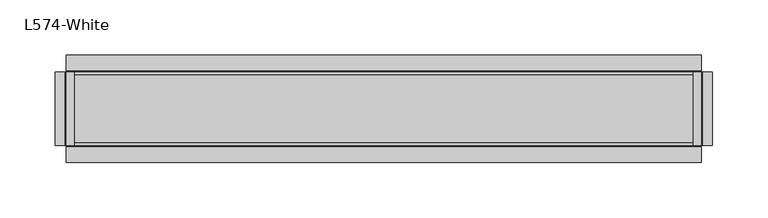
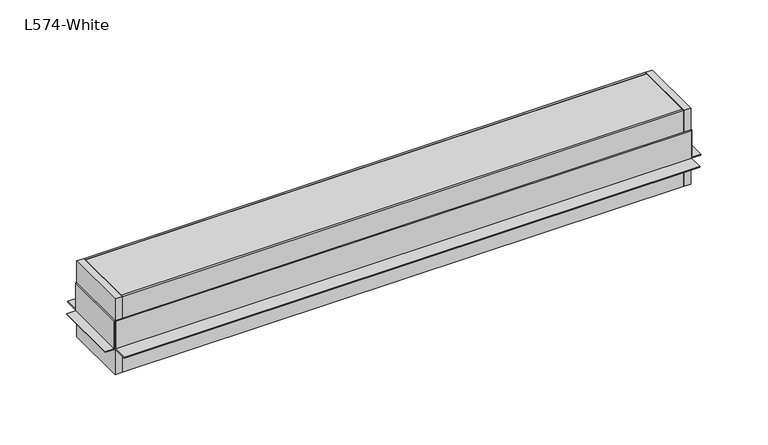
"""IFC4 building model written with IfcOpenShell, lengths in millimetres: light fixture geometry, Time%20Recessed%20Single : L574-White."""

from ifc_helpers import new_model, si_unit, frame, origin, place, context, project, spatial, polyline, outline, extrude, source, transform, mapped, element, save


def l574_white_cca8e8d5(model_context):
    return source(origin(), model_context, "Body", "SweptSolid", [
        extrude(outline(polyline([(279.0, 31.0), (279.0, -31.0), (-279.0, -31.0), (-279.0, 31.0), (279.0, 31.0)])), frame((0.0, 0.0, -25.0), z_axis=(0.0, 0.0, 1.0), x_axis=(1.0, 0.0, 0.0)), (0.0, 0.0, 1.0), 1.0),
        extrude(outline(polyline([(-279.0, 31.0), (-279.0, -31.0), (-280.0, -31.0), (-280.0, 31.0), (-279.0, 31.0)])), frame((0.0, 0.0, -25.0), z_axis=(0.0, 0.0, 1.0), x_axis=(1.0, 0.0, 0.0)), (0.0, 0.0, 1.0), 1.0),
        extrude(outline(polyline([(280.0, 31.0), (280.0, -31.0), (279.0, -31.0), (279.0, 31.0), (280.0, 31.0)])), frame((0.0, 0.0, -25.0), z_axis=(0.0, 0.0, 1.0), x_axis=(1.0, 0.0, 0.0)), (0.0, 0.0, 1.0), 1.0),
        extrude(outline(polyline([(33.0, 1.0), (33.0, 31.0), (34.0, 31.0), (34.0, 2.0), (48.5, 2.0), (48.5, 1.0), (33.0, 1.0)])), frame((-287.0, 0.0, 0.0), z_axis=(1.0, 0.0, 0.0), x_axis=(0.0, 1.0, 0.0)), (0.0, 0.0, 1.0), 574.0),
        extrude(outline(polyline([(-33.0, 1.0), (-48.5, 1.0), (-48.5, 2.0), (-34.0, 2.0), (-34.0, 31.0), (-33.0, 31.0), (-33.0, 1.0)])), frame((-287.0, 0.0, 0.0), z_axis=(1.0, 0.0, 0.0), x_axis=(0.0, 1.0, 0.0)), (0.0, 0.0, 1.0), 574.0),
        extrude(outline(polyline([(1.0, -287.0), (31.0, -287.0), (31.0, -288.0), (2.0, -288.0), (2.0, -297.0), (1.0, -297.0), (1.0, -287.0)])), frame((0.0, -33.0, 0.0), z_axis=(0.0, 1.0, 0.0), x_axis=(0.0, 0.0, 1.0)), (0.0, 0.0, 1.0), 66.0),
        extrude(outline(polyline([(1.0, 287.0), (1.0, 297.0), (2.0, 297.0), (2.0, 288.0), (31.0, 288.0), (31.0, 287.0), (1.0, 287.0)])), frame((0.0, -33.0, 0.0), z_axis=(0.0, 1.0, 0.0), x_axis=(0.0, 0.0, 1.0)), (0.0, 0.0, 1.0), 66.0),
        extrude(outline(polyline([(-280.0, 33.0), (-280.0, -33.0), (-287.0, -33.0), (-287.0, 33.0), (-280.0, 33.0)])), frame((0.0, 0.0, -26.0), z_axis=(0.0, 0.0, 1.0), x_axis=(1.0, 0.0, 0.0)), (0.0, 0.0, 1.0), 80.0),
        extrude(outline(polyline([(287.0, 33.0), (287.0, -33.0), (280.0, -33.0), (280.0, 33.0), (287.0, 33.0)])), frame((0.0, 0.0, -26.0), z_axis=(0.0, 0.0, 1.0), x_axis=(1.0, 0.0, 0.0)), (0.0, 0.0, 1.0), 80.0),
        extrude(outline(polyline([(280.0, 33.0), (280.0, 31.0), (-280.0, 31.0), (-280.0, 33.0), (280.0, 33.0)])), frame((0.0, 0.0, -26.0), z_axis=(0.0, 0.0, 1.0), x_axis=(1.0, 0.0, 0.0)), (0.0, 0.0, 1.0), 80.0),
        extrude(outline(polyline([(280.0, -31.0), (280.0, -33.0), (-280.0, -33.0), (-280.0, -31.0), (280.0, -31.0)])), frame((0.0, 0.0, -26.0), z_axis=(0.0, 0.0, 1.0), x_axis=(1.0, 0.0, 0.0)), (0.0, 0.0, 1.0), 80.0),
        extrude(outline(polyline([(280.0, 31.0), (280.0, -31.0), (-280.0, -31.0), (-280.0, 31.0), (280.0, 31.0)])), frame((0.0, 0.0, 52.0), z_axis=(0.0, 0.0, 1.0), x_axis=(1.0, 0.0, 0.0)), (0.0, 0.0, 1.0), 2.0),
    ])


if __name__ == "__main__":
    model = new_model("IFC4")
    model_context = context("Model", 3, world=origin())
    ifc_project = project(units=[si_unit("LENGTHUNIT", "METRE", prefix="MILLI")], contexts=[model_context])
    site = spatial("IfcSite", under=ifc_project)
    building = spatial("IfcBuilding", under=site)
    placement = place(None, origin())
    l574_white_shape = l574_white_cca8e8d5(model_context)
    element("IfcLightFixture", 1, ObjectType="Time%20Recessed%20Single : L574-White", at=placement, inside=building, context=model_context, shape_type="MappedRepresentation", body=[
        mapped(l574_white_shape, transform((0.0, 0.0, 0.0), x_axis=(1.0, 0.0, 0.0), y_axis=(0.0, 1.0, 0.0), z_axis=(0.0, 0.0, 1.0))),
    ])
    save(model, "model.ifc")
